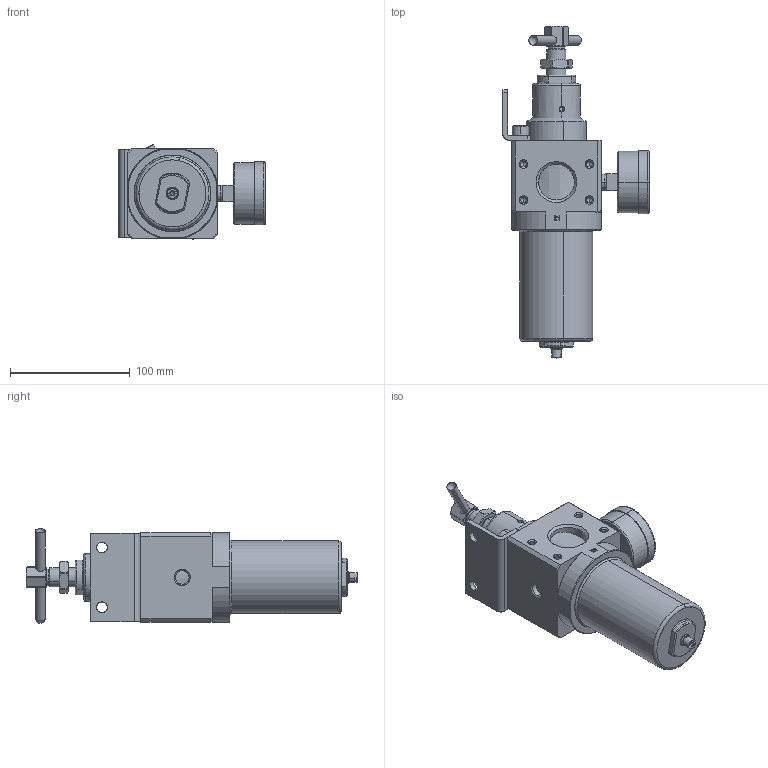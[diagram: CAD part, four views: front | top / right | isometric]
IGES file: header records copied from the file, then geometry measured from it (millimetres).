
Start section: SolidWorks IGES file using analytic representation for surfaces
Global section: file name: C:\Documents and Settings\Administrator\桌面\USFR-06,08.IGS,1; native system: 5HSolidWorks 2012; preprocessor: SolidWorks 2012; author: Administrator; date: 140305.090920; units: millimetre
Bounding box: 122.25 x 277.5 x 79.06 mm (x, y, z)
Surface area: 137282.9 mm2 (no closed solid volume)
Topology: 0 solids, 0 shells, 937 faces, 14017 edges, 16267 vertices
Faces by surface type: bspline 550, revolution 387
